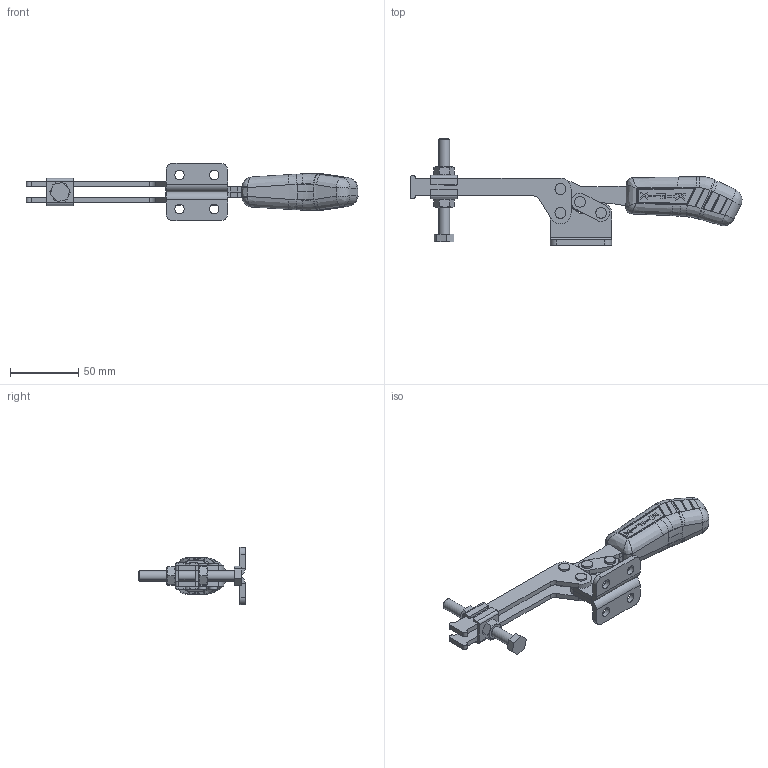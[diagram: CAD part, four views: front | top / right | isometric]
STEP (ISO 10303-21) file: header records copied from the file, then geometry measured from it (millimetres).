
FILE_DESCRIPTION (( 'STEP AP203' ), '1' );
FILE_NAME ('KF-521 DL.STEP', '2014-08-22T19:35:43', ( 'Ricardo' ), ( '' ), 'SwSTEP 2.0', 'SolidWorks 2013', '' );
FILE_SCHEMA (( 'CONFIG_CONTROL_DESIGN' ));
Length unit declared in the file: millimetre
Products named in the file (11): 07.60001; 14.10001; 12.50003; 02.12038_Direita; 11.50002; 02.12038_Esquerda; KF-521 DL; 03.14008; 01.10047; 08.10032; 06.50015
Assembly tree (18 placements, depth 2):
  KF-521 DL
    02.12038_Direita
    02.12038_Esquerda
    03.14008  x2
    01.10047  x2
    08.10032  x2
    06.50015  x4
    07.60001
    14.10001  x2
    12.50003
    11.50002  x2
Bounding box: 243.1 x 77.79 x 41.92 mm (x, y, z)
Volume: 95072.5 mm3; surface area: 48809.9 mm2
Topology: 18 solids, 18 shells, 626 faces, 1579 edges, 1004 vertices
Faces by surface type: plane 272, cylinder 195, bspline 126, cone 30, torus 3
Entity records: 20164 total; most frequent: CARTESIAN_POINT 7946, ORIENTED_EDGE 2556, DIRECTION 1800, EDGE_CURVE 1278, VERTEX_POINT 819, AXIS2_PLACEMENT_3D 627, EDGE_LOOP 555, VECTOR 546
